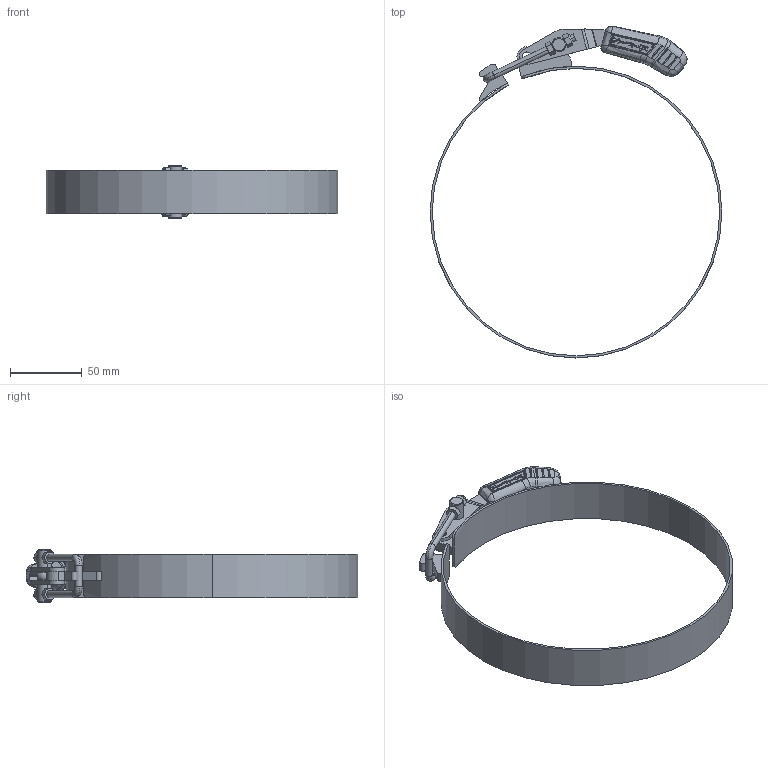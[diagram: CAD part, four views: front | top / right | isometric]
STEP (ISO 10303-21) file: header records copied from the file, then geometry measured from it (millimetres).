
FILE_DESCRIPTION (( 'STEP AP203' ), '1' );
FILE_NAME ('KF-743 CT D200.STEP', '2020-07-27T20:21:54', ( 'Ricardo' ), ( '' ), 'SwSTEP 2.0', 'SolidWorks 2019', '' );
FILE_SCHEMA (( 'CONFIG_CONTROL_DESIGN' ));
Length unit declared in the file: millimetre
Products named in the file (11): 02.10124; 07.60005; 01.10389_esquerda; KF-743 CT D200; 01.10389; 16.20034; 03.20018; 22.10093; 11.50005; 15.10208; 11.50013
Assembly tree (12 placements, depth 2):
  KF-743 CT D200
    22.10093
    15.10208
    02.10124
    01.10389_esquerda
    01.10389
    16.20034
    03.20018
    11.50005  x2
    11.50013  x2
    07.60005
Bounding box: 203 x 230.97 x 37 mm (x, y, z)
Volume: 61795.2 mm3; surface area: 60232.4 mm2
Topology: 12 solids, 12 shells, 848 faces, 2157 edges, 1343 vertices
Faces by surface type: bspline 273, cylinder 240, plane 213, cone 64, sphere 50, torus 8
Entity records: 32438 total; most frequent: CARTESIAN_POINT 14584, ORIENTED_EDGE 4082, DIRECTION 2667, EDGE_CURVE 2041, VERTEX_POINT 1276, AXIS2_PLACEMENT_3D 999, EDGE_LOOP 831, FACE_OUTER_BOUND 799
